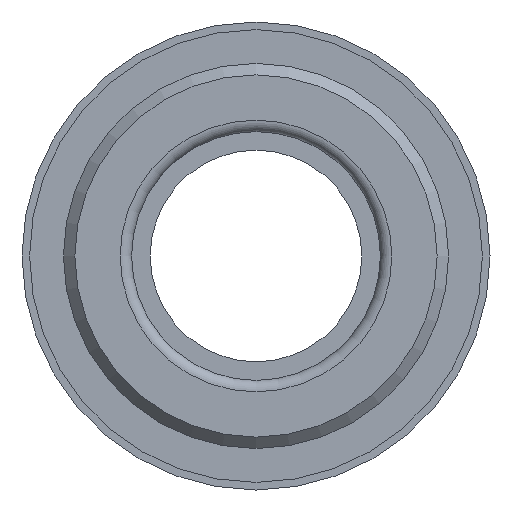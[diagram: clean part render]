
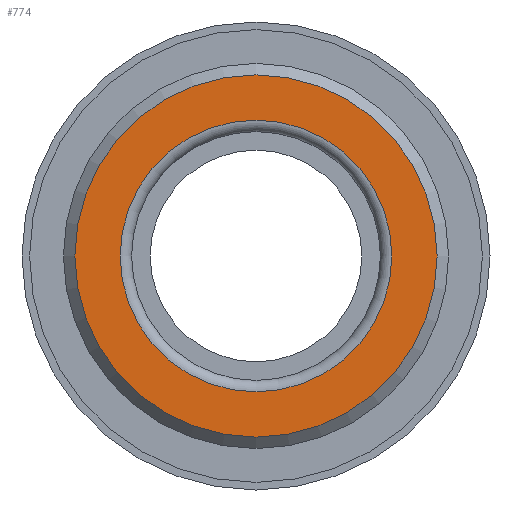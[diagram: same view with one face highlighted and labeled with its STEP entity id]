
A CAD part, left-side view. The second image highlights one B-rep face of the part: STEP entity #774.
In plain terms, the highlighted planar face has unit normal (-1, 0, 0).
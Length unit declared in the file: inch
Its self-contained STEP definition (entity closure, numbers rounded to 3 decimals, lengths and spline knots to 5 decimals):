
#52=PLANE('',#867);
#95=CIRCLE('',#868,0.267);
#96=CIRCLE('',#869,0.356);
#181=ORIENTED_EDGE('',*,*,#393,.T.);
#182=ORIENTED_EDGE('',*,*,#394,.F.);
#393=EDGE_CURVE('',#483,#483,#95,.T.);
#394=EDGE_CURVE('',#484,#484,#96,.T.);
#483=VERTEX_POINT('',#1406);
#484=VERTEX_POINT('',#1408);
#577=EDGE_LOOP('',(#181));
#578=EDGE_LOOP('',(#182));
#661=FACE_BOUND('',#577,.T.);
#662=FACE_BOUND('',#578,.T.);
#774=ADVANCED_FACE('',(#661,#662),#52,.T.);
#867=AXIS2_PLACEMENT_3D('',#1404,#1015,#1016);
#868=AXIS2_PLACEMENT_3D('',#1405,#1017,#1018);
#869=AXIS2_PLACEMENT_3D('',#1407,#1019,#1020);
#1015=DIRECTION('',(-1.,0.,0.));
#1016=DIRECTION('',(0.,0.,1.));
#1017=DIRECTION('',(1.,0.,0.));
#1018=DIRECTION('',(0.,0.,-1.));
#1019=DIRECTION('',(1.,0.,0.));
#1020=DIRECTION('',(0.,0.,-1.));
#1404=CARTESIAN_POINT('',(-0.0225,0.356,0.));
#1405=CARTESIAN_POINT('',(-0.0225,0.,0.));
#1406=CARTESIAN_POINT('',(-0.0225,0.,-0.267));
#1407=CARTESIAN_POINT('',(-0.0225,0.,0.));
#1408=CARTESIAN_POINT('',(-0.0225,0.,-0.356));
